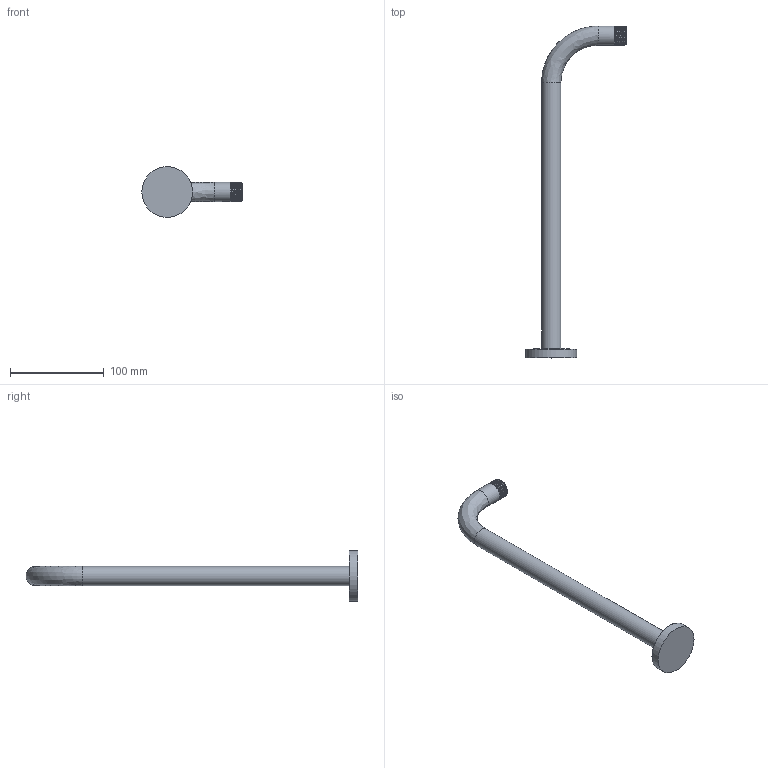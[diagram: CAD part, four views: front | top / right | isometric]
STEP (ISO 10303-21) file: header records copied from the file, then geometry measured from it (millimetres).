
FILE_DESCRIPTION (( 'STEP AP203' ), '1' );
FILE_NAME ('9926V210 3D CLIENTI.STEP', '2022-02-11T10:47:42', ( '' ), ( '' ), 'SwSTEP 2.0', 'SolidWorks 2020', '' );
FILE_SCHEMA (( 'CONFIG_CONTROL_DESIGN' ));
Length unit declared in the file: millimetre
Products named in the file (1): 9926V210 3D CLIENTI
Bounding box: 106.75 x 353.3 x 54 mm (x, y, z)
Volume: 143446.7 mm3; surface area: 33550.5 mm2
Topology: 1 solids, 1 shells, 24 faces, 85 edges, 65 vertices
Faces by surface type: cylinder 10, bspline 8, plane 4, cone 1, torus 1
Full cylindrical faces by diameter (mm): 17.5 x1, 20.5 x7, 54 x1
Entity records: 4562 total; most frequent: CARTESIAN_POINT 4055, ORIENTED_EDGE 116, EDGE_CURVE 58, B_SPLINE_CURVE_WITH_KNOTS 50, VERTEX_POINT 50, DIRECTION 38, EDGE_LOOP 26, FACE_OUTER_BOUND 24
